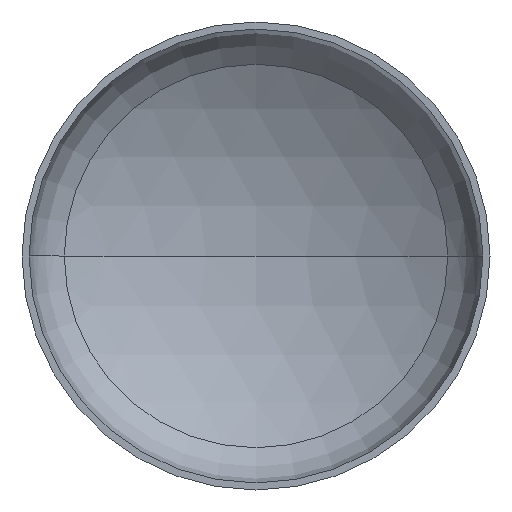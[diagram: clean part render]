
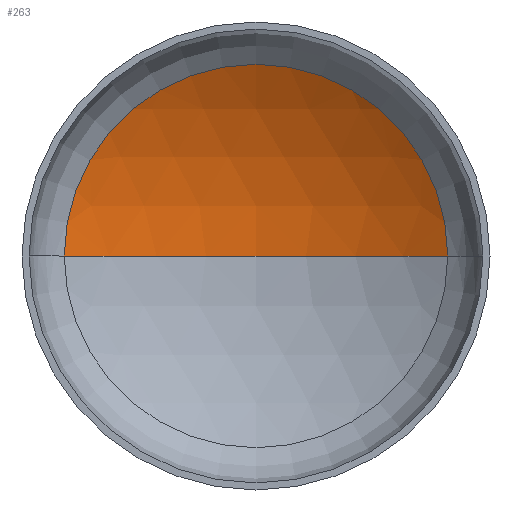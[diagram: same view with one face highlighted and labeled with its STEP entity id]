
A CAD part, front view. The second image highlights one B-rep face of the part: STEP entity #263.
In plain terms, the highlighted spherical face has radius 4000 mm.
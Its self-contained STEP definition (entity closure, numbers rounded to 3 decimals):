
#20 = AXIS2_PLACEMENT_3D ( 'NONE', #291, #102, #247 ) ;
#25 = AXIS2_PLACEMENT_3D ( 'NONE', #217, #380, #385 ) ;
#31 = SPHERICAL_SURFACE ( 'NONE', #35, 4000. ) ;
#33 = EDGE_LOOP ( 'NONE', ( #281, #195, #240 ) ) ;
#35 = AXIS2_PLACEMENT_3D ( 'NONE', #140, #170, #245 ) ;
#77 = VERTEX_POINT ( 'NONE', #316 ) ;
#97 = CIRCLE ( 'NONE', #299, 4000. ) ;
#102 = DIRECTION ( 'NONE',  ( 0., 0., -1. ) ) ;
#140 = CARTESIAN_POINT ( 'NONE',  ( 0., -2654.38, 0. ) ) ;
#147 = CARTESIAN_POINT ( 'NONE',  ( 0., 1345.62, 0. ) ) ;
#155 = VERTEX_POINT ( 'NONE', #249 ) ;
#170 = DIRECTION ( 'NONE',  ( 0., 0., -1. ) ) ;
#195 = ORIENTED_EDGE ( 'NONE', *, *, #335, .T. ) ;
#217 = CARTESIAN_POINT ( 'NONE',  ( 0., 781.385, 0. ) ) ;
#232 = VERTEX_POINT ( 'NONE', #147 ) ;
#240 = ORIENTED_EDGE ( 'NONE', *, *, #325, .T. ) ;
#244 = FACE_OUTER_BOUND ( 'NONE', #33, .T. ) ;
#245 = DIRECTION ( 'NONE',  ( -1., 0., 0. ) ) ;
#247 = DIRECTION ( 'NONE',  ( -1., 0., 0. ) ) ;
#249 = CARTESIAN_POINT ( 'NONE',  ( -2048.297, 781.385, 0. ) ) ;
#253 = DIRECTION ( 'NONE',  ( 0., 0., 1. ) ) ;
#263 = ADVANCED_FACE ( 'NONE', ( #244 ), #31, .F. ) ;
#281 = ORIENTED_EDGE ( 'NONE', *, *, #387, .F. ) ;
#291 = CARTESIAN_POINT ( 'NONE',  ( 0., -2654.38, 0. ) ) ;
#299 = AXIS2_PLACEMENT_3D ( 'NONE', #390, #253, #410 ) ;
#316 = CARTESIAN_POINT ( 'NONE',  ( 2048.297, 781.385, 0. ) ) ;
#325 = EDGE_CURVE ( 'NONE', #77, #155, #407, .T. ) ;
#335 = EDGE_CURVE ( 'NONE', #232, #77, #355, .T. ) ;
#355 = CIRCLE ( 'NONE', #20, 4000. ) ;
#380 = DIRECTION ( 'NONE',  ( 0., -1., 0. ) ) ;
#385 = DIRECTION ( 'NONE',  ( 1., 0., 0. ) ) ;
#387 = EDGE_CURVE ( 'NONE', #232, #155, #97, .T. ) ;
#390 = CARTESIAN_POINT ( 'NONE',  ( 0., -2654.38, 0. ) ) ;
#407 = CIRCLE ( 'NONE', #25, 2048.297 ) ;
#410 = DIRECTION ( 'NONE',  ( 1., 0., 0. ) ) ;
